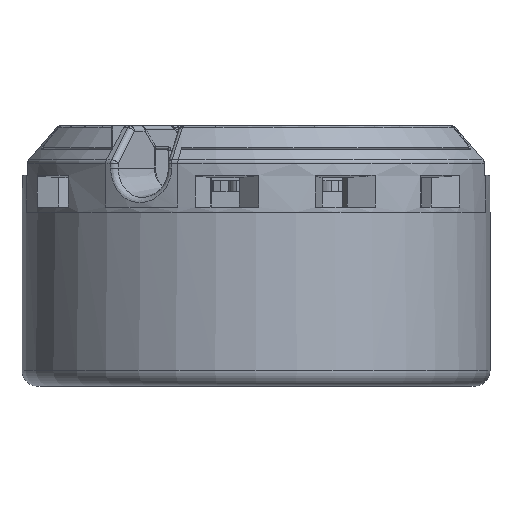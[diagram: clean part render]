
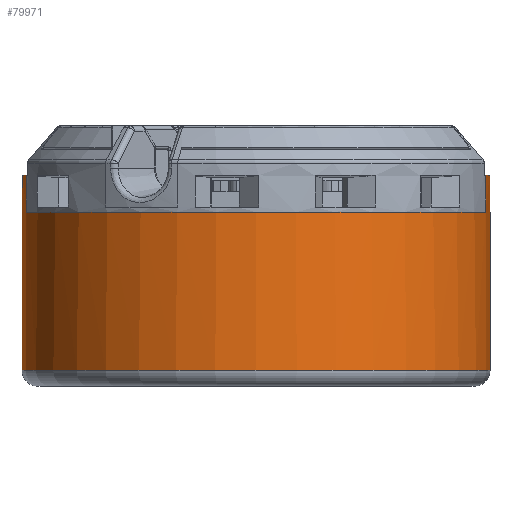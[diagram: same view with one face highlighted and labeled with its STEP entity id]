
A CAD part, left-side view. The second image highlights one B-rep face of the part: STEP entity #79971.
In plain terms, the highlighted cylindrical face has radius 22.2 mm (diameter 44.4 mm), a partial arc.
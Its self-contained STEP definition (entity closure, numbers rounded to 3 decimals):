
#69786=CARTESIAN_POINT('',(0.,0.,-11.5));
#69787=DIRECTION('',(0.,0.,-1.));
#69788=DIRECTION('',(0.,-1.,0.));
#69789=AXIS2_PLACEMENT_3D('',#69786,#69787,#69788);
#69811=CARTESIAN_POINT('',(0.,0.,3.5));
#69812=DIRECTION('',(0.,0.,1.));
#69813=DIRECTION('',(0.194,0.981,0.));
#69814=AXIS2_PLACEMENT_3D('',#69811,#69812,#69813);
#69816=DIRECTION('',(0.,0.,1.));
#69817=VECTOR('',#69816,15.);
#69818=CARTESIAN_POINT('',(0.,-22.2,-11.5));
#69819=LINE('',#69818,#69817);
#69820=CARTESIAN_POINT('',(0.,0.,3.5));
#69821=DIRECTION('',(0.,0.,1.));
#69822=DIRECTION('',(0.,-1.,0.));
#69823=AXIS2_PLACEMENT_3D('',#69820,#69821,#69822);
#69851=CARTESIAN_POINT('',(0.,0.,3.5));
#69852=DIRECTION('',(0.,0.,1.));
#69853=DIRECTION('',(-0.194,0.981,0.));
#69854=AXIS2_PLACEMENT_3D('',#69851,#69852,#69853);
#72741=DIRECTION('',(0.,0.,1.));
#72742=VECTOR('',#72741,15.);
#72743=CARTESIAN_POINT('',(0.,22.2,-11.5));
#72744=LINE('',#72743,#72742);
#72745=DIRECTION('',(0.,0.,1.));
#72746=VECTOR('',#72745,3.5);
#72747=CARTESIAN_POINT('',(4.3,21.78,3.5));
#72748=LINE('',#72747,#72746);
#72749=CARTESIAN_POINT('',(0.,0.,7.));
#72750=DIRECTION('',(0.,0.,1.));
#72751=DIRECTION('',(0.194,0.981,0.));
#72752=AXIS2_PLACEMENT_3D('',#72749,#72750,#72751);
#72754=DIRECTION('',(0.,0.,1.));
#72755=VECTOR('',#72754,3.5);
#72756=CARTESIAN_POINT('',(-4.3,-21.78,3.5));
#72757=LINE('',#72756,#72755);
#72758=CARTESIAN_POINT('',(0.,0.,7.));
#72759=DIRECTION('',(0.,0.,1.));
#72760=DIRECTION('',(-0.194,-0.981,0.));
#72761=AXIS2_PLACEMENT_3D('',#72758,#72759,#72760);
#72921=DIRECTION('',(0.,0.,1.));
#72922=VECTOR('',#72921,3.5);
#72923=CARTESIAN_POINT('',(-4.3,21.78,3.5));
#72924=LINE('',#72923,#72922);
#72943=DIRECTION('',(0.,0.,1.));
#72944=VECTOR('',#72943,3.5);
#72945=CARTESIAN_POINT('',(4.3,-21.78,3.5));
#72946=LINE('',#72945,#72944);
#74187=CARTESIAN_POINT('',(0.,-22.2,-11.5));
#74188=CARTESIAN_POINT('',(0.,22.2,-11.5));
#74189=VERTEX_POINT('',#74187);
#74190=VERTEX_POINT('',#74188);
#74269=CARTESIAN_POINT('',(-4.3,21.78,3.5));
#74270=CARTESIAN_POINT('',(-4.3,-21.78,3.5));
#74271=VERTEX_POINT('',#74269);
#74272=VERTEX_POINT('',#74270);
#74273=CARTESIAN_POINT('',(4.3,-21.78,3.5));
#74274=CARTESIAN_POINT('',(4.3,21.78,3.5));
#74275=VERTEX_POINT('',#74273);
#74276=VERTEX_POINT('',#74274);
#74277=CARTESIAN_POINT('',(0.,22.2,3.5));
#74278=VERTEX_POINT('',#74277);
#74283=CARTESIAN_POINT('',(4.3,21.78,7.));
#74284=VERTEX_POINT('',#74283);
#74285=CARTESIAN_POINT('',(-4.3,21.78,7.));
#74286=VERTEX_POINT('',#74285);
#74289=CARTESIAN_POINT('',(0.,-22.2,3.5));
#74290=VERTEX_POINT('',#74289);
#74293=CARTESIAN_POINT('',(-4.3,-21.78,7.));
#74294=VERTEX_POINT('',#74293);
#74295=CARTESIAN_POINT('',(4.3,-21.78,7.));
#74296=VERTEX_POINT('',#74295);
#79946=CARTESIAN_POINT('',(0.,0.,-13.));
#79947=DIRECTION('',(0.,0.,1.));
#79948=DIRECTION('',(0.,1.,0.));
#79949=AXIS2_PLACEMENT_3D('',#79946,#79947,#79948);
#79950=CYLINDRICAL_SURFACE('',#79949,22.2);
#79951=ORIENTED_EDGE('',*,*,#75686,.T.);
#79952=ORIENTED_EDGE('',*,*,#75684,.F.);
#79954=ORIENTED_EDGE('',*,*,#79953,.T.);
#79956=ORIENTED_EDGE('',*,*,#79955,.T.);
#79958=ORIENTED_EDGE('',*,*,#79957,.F.);
#79959=ORIENTED_EDGE('',*,*,#75701,.T.);
#79961=ORIENTED_EDGE('',*,*,#79960,.T.);
#79963=ORIENTED_EDGE('',*,*,#79962,.T.);
#79965=ORIENTED_EDGE('',*,*,#79964,.F.);
#79966=ORIENTED_EDGE('',*,*,#75691,.F.);
#79967=ORIENTED_EDGE('',*,*,#75689,.F.);
#79968=ORIENTED_EDGE('',*,*,#75657,.T.);
#79969=EDGE_LOOP('',(#79951,#79952,#79954,#79956,#79958,#79959,#79961,#79963,
#79965,#79966,#79967,#79968));
#79970=FACE_OUTER_BOUND('',#79969,.F.);
#79971=ADVANCED_FACE('',(#79970),#79950,.T.);
#69790=CIRCLE('',#69789,22.2);
#69815=CIRCLE('',#69814,22.2);
#69824=CIRCLE('',#69823,22.2);
#69855=CIRCLE('',#69854,22.2);
#72753=CIRCLE('',#72752,22.2);
#72762=CIRCLE('',#72761,22.2);
#75657=EDGE_CURVE('',#74189,#74190,#69790,.T.);
#75684=EDGE_CURVE('',#74276,#74278,#69815,.T.);
#75686=EDGE_CURVE('',#74190,#74278,#72744,.T.);
#75689=EDGE_CURVE('',#74189,#74290,#69819,.T.);
#75691=EDGE_CURVE('',#74290,#74275,#69824,.T.);
#75701=EDGE_CURVE('',#74271,#74272,#69855,.T.);
#79953=EDGE_CURVE('',#74276,#74284,#72748,.T.);
#79955=EDGE_CURVE('',#74284,#74286,#72753,.T.);
#79957=EDGE_CURVE('',#74271,#74286,#72924,.T.);
#79960=EDGE_CURVE('',#74272,#74294,#72757,.T.);
#79962=EDGE_CURVE('',#74294,#74296,#72762,.T.);
#79964=EDGE_CURVE('',#74275,#74296,#72946,.T.);
